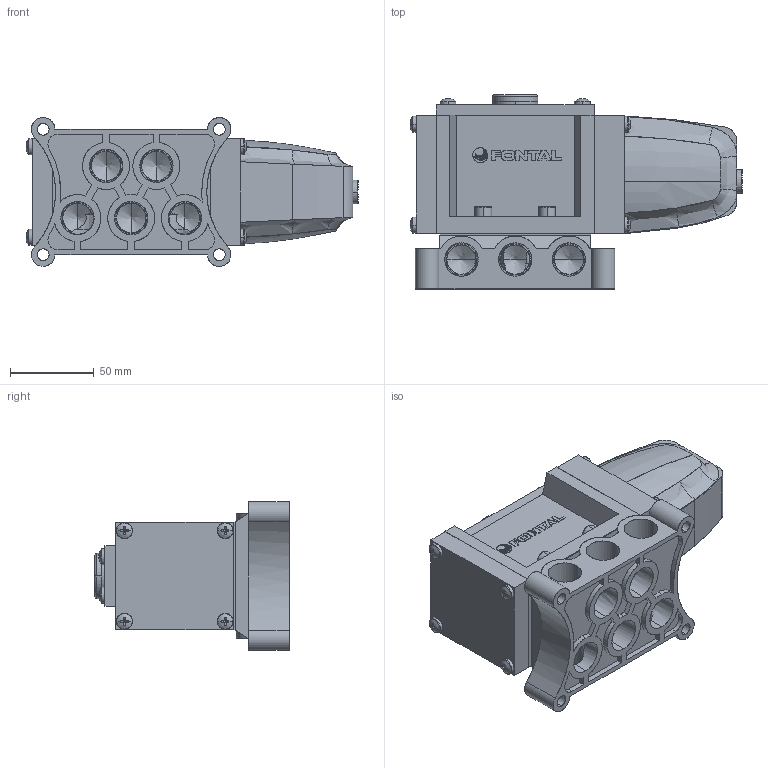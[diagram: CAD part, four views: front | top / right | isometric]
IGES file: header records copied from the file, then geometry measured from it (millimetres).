
Start section: SolidWorks IGES file using analytic representation for surfaces
Global section: file name: D:\Custom\3D繪製\A\A10\AS2410-04-##.IGS,1; native system: 5HSolidWorks 2014; preprocessor: SolidWorks 2014; author: Chieh_Lu; date: 151223.134633; units: millimetre
Bounding box: 197.63 x 115.6 x 88.6 mm (x, y, z)
Surface area: 152452.4 mm2 (no closed solid volume)
Topology: 0 solids, 0 shells, 901 faces, 10822 edges, 10774 vertices
Faces by surface type: bspline 544, revolution 357
